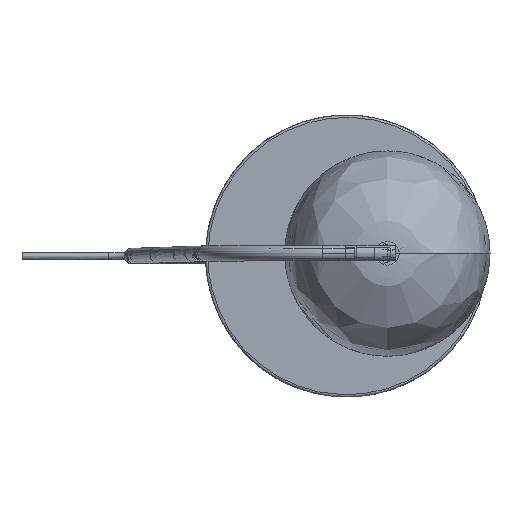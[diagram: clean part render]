
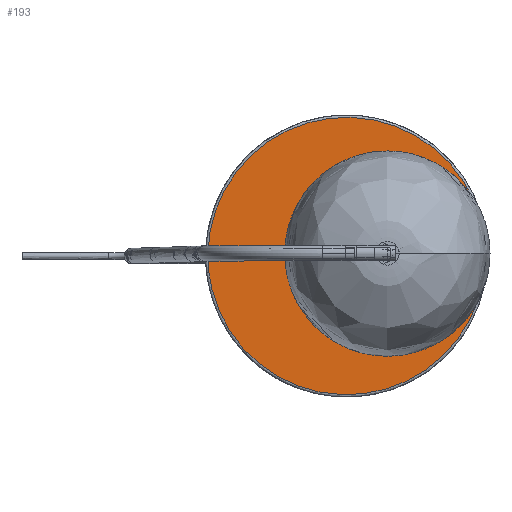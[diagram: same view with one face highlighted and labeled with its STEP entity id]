
A CAD part, top view. The second image highlights one B-rep face of the part: STEP entity #193.
In plain terms, the highlighted planar face has unit normal (0, 0, 1).
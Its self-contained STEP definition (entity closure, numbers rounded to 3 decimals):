
#193=ADVANCED_FACE('',(#463),#3639,.T.);
#463=FACE_OUTER_BOUND('',#757,.T.);
#757=EDGE_LOOP('',(#1311,#1312));
#1311=ORIENTED_EDGE('',*,*,#2320,.F.);
#1312=ORIENTED_EDGE('',*,*,#2287,.F.);
#2287=EDGE_CURVE('',#3373,#3395,#2988,.T.);
#2320=EDGE_CURVE('',#3395,#3373,#3012,.T.);
#2988=(
BOUNDED_CURVE()
B_SPLINE_CURVE(3,(#8198,#8199,#8200,#8201,#8202,#8203,#8204,#8205,#8206,
#8207,#8208,#8209,#8210,#8211,#8212,#8213,#8214,#8215,#8216,#8217,#8218,
#8219,#8220,#8221,#8222,#8223,#8224,#8225,#8226,#8227,#8228,#8229,#8230,
#8231,#8232,#8233,#8234),.UNSPECIFIED.,.F.,.F.)
B_SPLINE_CURVE_WITH_KNOTS((4,1,1,1,1,1,1,1,1,1,1,1,1,1,1,1,3,1,1,1,1,1,
1,1,1,1,1,1,1,1,1,1,4),(0.,10.617,21.592,32.893,
44.481,56.31,68.325,80.469,92.677,
104.885,117.029,129.044,140.873,152.461,
163.762,174.737,185.354,195.971,206.946,
218.247,229.835,241.664,253.679,265.823,
278.031,290.239,302.383,314.398,326.227,
337.815,349.116,360.091,370.708),
 .UNSPECIFIED.)
CURVE()
GEOMETRIC_REPRESENTATION_ITEM()
RATIONAL_B_SPLINE_CURVE((1.,1.,1.,1.,1.,1.,
1.,1.,1.,1.,1.,
1.,1.,1.,1.,1.,1.,1.,1.,1.,1.,1.,1.,1.,1.,
1.,1.,1.,1.,1.,1.,1.,1.,1.,
1.,1.,1.))
REPRESENTATION_ITEM('')
);
#3012=(
BOUNDED_CURVE()
B_SPLINE_CURVE(3,(#8465,#8466,#8467,#8468,#8469,#8470,#8471,#8472,#8473,
#8474,#8475,#8476,#8477,#8478,#8479,#8480,#8481,#8482,#8483,#8484,#8485,
#8486,#8487,#8488,#8489,#8490,#8491,#8492,#8493,#8494,#8495,#8496,#8497,
#8498,#8499,#8500,#8501),.UNSPECIFIED.,.F.,.F.)
B_SPLINE_CURVE_WITH_KNOTS((4,1,1,1,1,1,1,1,1,1,1,1,1,1,1,1,3,1,1,1,1,1,
1,1,1,1,1,1,1,1,1,1,4),(370.708,381.325,392.3,
403.601,415.189,427.018,439.033,451.176,
463.385,475.593,487.737,499.752,511.581,
523.169,534.47,545.445,556.062,566.679,
577.654,588.955,600.543,612.372,624.387,
636.53,648.739,660.947,673.091,685.106,
696.935,708.523,719.824,730.799,741.416),
 .UNSPECIFIED.)
CURVE()
GEOMETRIC_REPRESENTATION_ITEM()
RATIONAL_B_SPLINE_CURVE((1.,1.,1.,1.,1.,1.,
1.,1.,1.,1.,1.,1.,1.,1.,1.,
1.,1.,1.,1.,1.,1.,
1.,1.,1.,1.,1.,1.,1.,1.,1.,
1.,1.,1.,1.,1.,1.,
1.))
REPRESENTATION_ITEM('')
);
#3373=VERTEX_POINT('',#8154);
#3395=VERTEX_POINT('',#8176);
#3639=PLANE('',#3923);
#3923=AXIS2_PLACEMENT_3D('',#8146,#4025,$);
#4025=DIRECTION('',(0.,0.,1.));
#8146=CARTESIAN_POINT('',(-1713.716,198.525,-171.961));
#8154=CARTESIAN_POINT('',(-1445.716,48.525,-171.961));
#8176=CARTESIAN_POINT('',(-1681.716,48.525,-171.961));
#8198=CARTESIAN_POINT('',(-1445.716,48.525,-171.961));
#8199=CARTESIAN_POINT('',(-1445.716,44.986,-171.961));
#8200=CARTESIAN_POINT('',(-1446.04,37.789,-171.961));
#8201=CARTESIAN_POINT('',(-1447.533,26.915,-171.961));
#8202=CARTESIAN_POINT('',(-1450.119,15.913,-171.961));
#8203=CARTESIAN_POINT('',(-1453.85,4.944,-171.961));
#8204=CARTESIAN_POINT('',(-1458.748,-5.819,-171.961));
#8205=CARTESIAN_POINT('',(-1464.801,-16.194,-171.961));
#8206=CARTESIAN_POINT('',(-1471.957,-25.999,-171.961));
#8207=CARTESIAN_POINT('',(-1480.128,-35.062,-171.961));
#8208=CARTESIAN_POINT('',(-1489.192,-43.234,-171.961));
#8209=CARTESIAN_POINT('',(-1498.996,-50.39,-171.961));
#8210=CARTESIAN_POINT('',(-1509.371,-56.442,-171.961));
#8211=CARTESIAN_POINT('',(-1520.135,-61.341,-171.961));
#8212=CARTESIAN_POINT('',(-1531.104,-65.072,-171.961));
#8213=CARTESIAN_POINT('',(-1542.105,-67.658,-171.961));
#8214=CARTESIAN_POINT('',(-1552.979,-69.151,-171.961));
#8215=CARTESIAN_POINT('',(-1560.177,-69.475,-171.961));
#8216=CARTESIAN_POINT('',(-1563.716,-69.475,-171.961));
#8217=CARTESIAN_POINT('',(-1567.255,-69.475,-171.961));
#8218=CARTESIAN_POINT('',(-1574.452,-69.151,-171.961));
#8219=CARTESIAN_POINT('',(-1585.326,-67.658,-171.961));
#8220=CARTESIAN_POINT('',(-1596.327,-65.072,-171.961));
#8221=CARTESIAN_POINT('',(-1607.297,-61.341,-171.961));
#8222=CARTESIAN_POINT('',(-1618.06,-56.442,-171.961));
#8223=CARTESIAN_POINT('',(-1628.435,-50.39,-171.961));
#8224=CARTESIAN_POINT('',(-1638.24,-43.234,-171.961));
#8225=CARTESIAN_POINT('',(-1647.303,-35.062,-171.961));
#8226=CARTESIAN_POINT('',(-1655.475,-25.999,-171.961));
#8227=CARTESIAN_POINT('',(-1662.631,-16.194,-171.961));
#8228=CARTESIAN_POINT('',(-1668.683,-5.819,-171.961));
#8229=CARTESIAN_POINT('',(-1673.581,4.944,-171.961));
#8230=CARTESIAN_POINT('',(-1677.313,15.913,-171.961));
#8231=CARTESIAN_POINT('',(-1679.898,26.915,-171.961));
#8232=CARTESIAN_POINT('',(-1681.392,37.789,-171.961));
#8233=CARTESIAN_POINT('',(-1681.716,44.986,-171.961));
#8234=CARTESIAN_POINT('',(-1681.716,48.525,-171.961));
#8465=CARTESIAN_POINT('',(-1681.716,48.525,-171.961));
#8466=CARTESIAN_POINT('',(-1681.716,52.064,-171.961));
#8467=CARTESIAN_POINT('',(-1681.392,59.261,-171.961));
#8468=CARTESIAN_POINT('',(-1679.898,70.136,-171.961));
#8469=CARTESIAN_POINT('',(-1677.313,81.137,-171.961));
#8470=CARTESIAN_POINT('',(-1673.581,92.106,-171.961));
#8471=CARTESIAN_POINT('',(-1668.683,102.87,-171.961));
#8472=CARTESIAN_POINT('',(-1662.631,113.244,-171.961));
#8473=CARTESIAN_POINT('',(-1655.475,123.049,-171.961));
#8474=CARTESIAN_POINT('',(-1647.303,132.113,-171.961));
#8475=CARTESIAN_POINT('',(-1638.24,140.284,-171.961));
#8476=CARTESIAN_POINT('',(-1628.435,147.44,-171.961));
#8477=CARTESIAN_POINT('',(-1618.06,153.492,-171.961));
#8478=CARTESIAN_POINT('',(-1607.297,158.391,-171.961));
#8479=CARTESIAN_POINT('',(-1596.327,162.122,-171.961));
#8480=CARTESIAN_POINT('',(-1585.326,164.708,-171.961));
#8481=CARTESIAN_POINT('',(-1574.452,166.201,-171.961));
#8482=CARTESIAN_POINT('',(-1567.255,166.525,-171.961));
#8483=CARTESIAN_POINT('',(-1563.716,166.525,-171.961));
#8484=CARTESIAN_POINT('',(-1560.177,166.525,-171.961));
#8485=CARTESIAN_POINT('',(-1552.979,166.201,-171.961));
#8486=CARTESIAN_POINT('',(-1542.105,164.708,-171.961));
#8487=CARTESIAN_POINT('',(-1531.104,162.122,-171.961));
#8488=CARTESIAN_POINT('',(-1520.135,158.391,-171.961));
#8489=CARTESIAN_POINT('',(-1509.371,153.492,-171.961));
#8490=CARTESIAN_POINT('',(-1498.996,147.44,-171.961));
#8491=CARTESIAN_POINT('',(-1489.192,140.284,-171.961));
#8492=CARTESIAN_POINT('',(-1480.128,132.113,-171.961));
#8493=CARTESIAN_POINT('',(-1471.957,123.049,-171.961));
#8494=CARTESIAN_POINT('',(-1464.801,113.244,-171.961));
#8495=CARTESIAN_POINT('',(-1458.748,102.869,-171.961));
#8496=CARTESIAN_POINT('',(-1453.85,92.106,-171.961));
#8497=CARTESIAN_POINT('',(-1450.119,81.137,-171.961));
#8498=CARTESIAN_POINT('',(-1447.533,70.136,-171.961));
#8499=CARTESIAN_POINT('',(-1446.04,59.261,-171.961));
#8500=CARTESIAN_POINT('',(-1445.716,52.064,-171.961));
#8501=CARTESIAN_POINT('',(-1445.716,48.525,-171.961));
